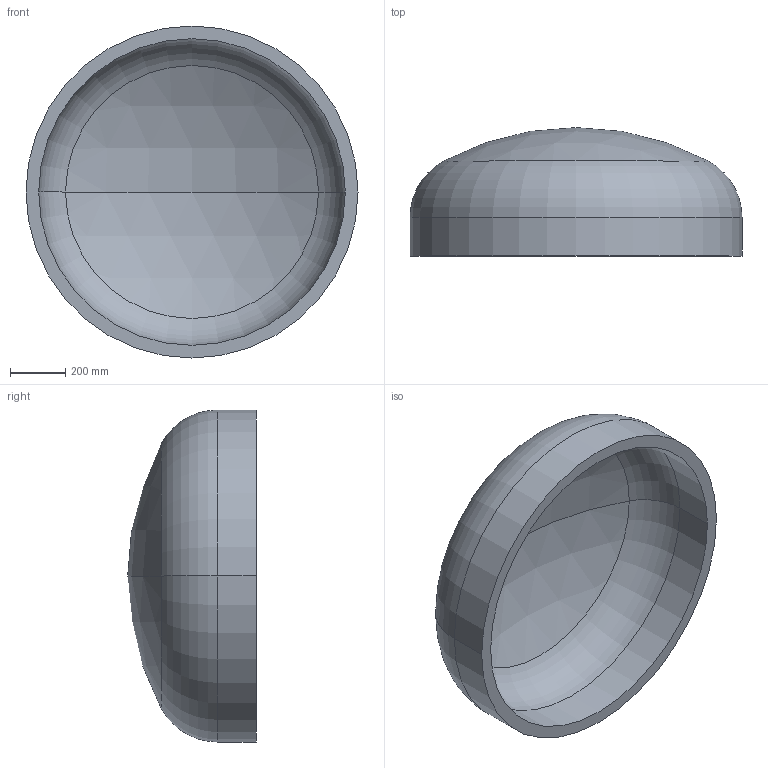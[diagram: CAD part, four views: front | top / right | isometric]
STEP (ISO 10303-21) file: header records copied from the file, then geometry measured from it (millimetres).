
FILE_DESCRIPTION (( 'STEP AP203' ), '1' );
FILE_NAME ('DIN 28013 Korbbogenform_-_Boden DIN 28013 - 1200 x 140 - I - s=46.step', '2016-07-01T09:30:00', ( '' ), ( '' ), 'SwSTEP 2.0', 'SolidWorks 2013', '' );
FILE_SCHEMA (( 'CONFIG_CONTROL_DESIGN' ));
Length unit declared in the file: millimetre
Products named in the file (1): DIN 28013 Korbbogenform_-_Boden DIN 28013 - 1200 x 140 - I - s=46
Bounding box: 1200 x 464.48 x 1200 mm (x, y, z)
Volume: 91920117.5 mm3; surface area: 4167725.9 mm2
Topology: 1 solids, 1 shells, 13 faces, 24 edges, 14 vertices
Faces by surface type: torus 4, cylinder 4, sphere 4, plane 1
Entity records: 407 total; most frequent: DIRECTION 72, CARTESIAN_POINT 52, ORIENTED_EDGE 48, AXIS2_PLACEMENT_3D 34, EDGE_CURVE 24, CIRCLE 20, VERTEX_POINT 14, EDGE_LOOP 14
